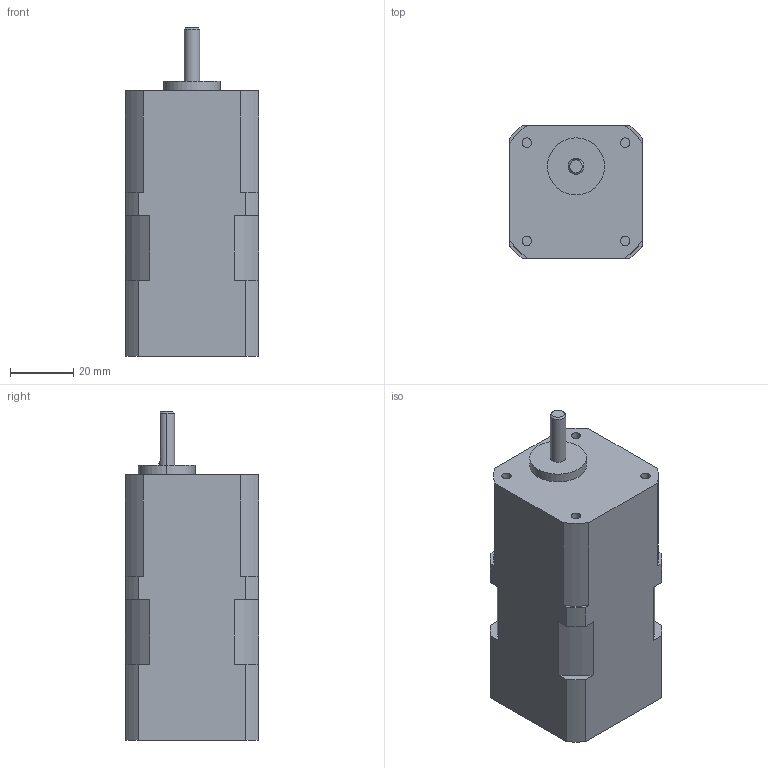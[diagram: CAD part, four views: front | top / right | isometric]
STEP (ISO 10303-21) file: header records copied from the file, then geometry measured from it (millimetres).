
FILE_DESCRIPTION (( 'STEP AP203' ), '1' );
FILE_NAME ('PMSB-B42D2ESD_3D.STEP', '2020-12-07T06:22:25', ( '' ), ( '' ), 'SwSTEP 2.0', 'SolidWorks 2018', '' );
FILE_SCHEMA (( 'CONFIG_CONTROL_DESIGN' ));
Length unit declared in the file: millimetre
Products named in the file (1): PMSB-B42D2ESD_3D
Bounding box: 42 x 42 x 103.8 mm (x, y, z)
Volume: 143882.9 mm3; surface area: 17301.8 mm2
Topology: 1 solids, 1 shells, 57 faces, 144 edges, 95 vertices
Faces by surface type: cylinder 29, plane 25, cone 3
Entity records: 1844 total; most frequent: CARTESIAN_POINT 336, DIRECTION 317, ORIENTED_EDGE 288, EDGE_CURVE 144, AXIS2_PLACEMENT_3D 118, VERTEX_POINT 95, VECTOR 81, LINE 81
